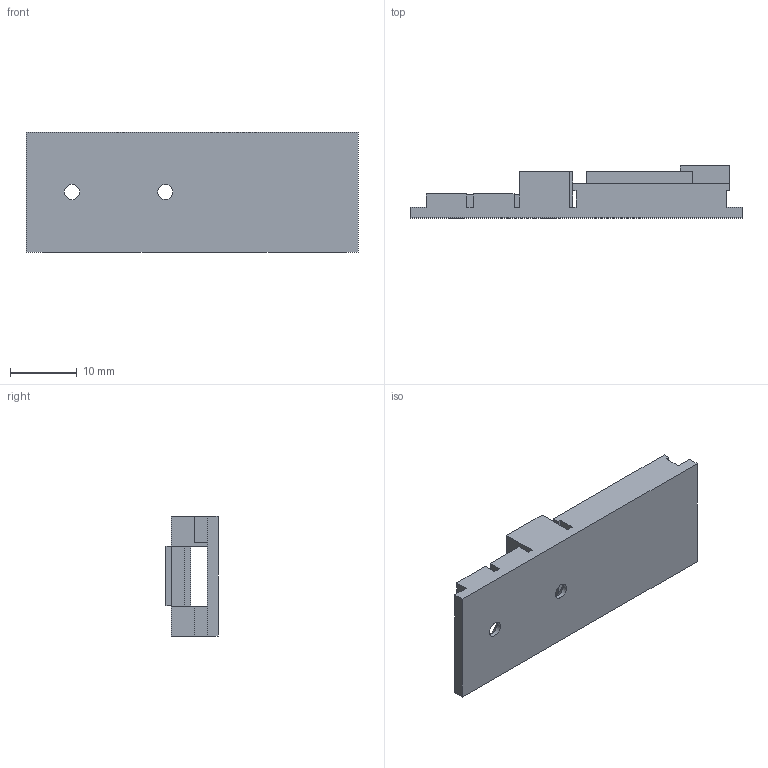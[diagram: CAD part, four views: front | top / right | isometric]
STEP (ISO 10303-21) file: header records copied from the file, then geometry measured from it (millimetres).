
FILE_DESCRIPTION(('Open CASCADE Model'),'2;1');
FILE_NAME('Open CASCADE Shape Model','2026-11-23T18:10:06',('Author'),( 'Open CASCADE'),'Open CASCADE STEP processor 8.0','build123d', 'Unknown');
FILE_SCHEMA(('AUTOMOTIVE_DESIGN { 1 0 10303 214 1 1 1 1 }'));
Length unit declared in the file: millimetre
Products named in the file (1): SOLID
Bounding box: 49.8 x 7.83 x 18 mm (x, y, z)
Volume: 3271.4 mm3; surface area: 3528.3 mm2
Topology: 1 solids, 1 shells, 51 faces, 152 edges, 100 vertices
Faces by surface type: plane 47, cylinder 2, cone 2
Full cylindrical faces by diameter (mm): 2.3 x2
Entity records: 3616 total; most frequent: CARTESIAN_POINT 710, DIRECTION 484, LINE 368, VECTOR 368, ORIENTED_EDGE 304, PCURVE 304, DEFINITIONAL_REPRESENTATION 304, EDGE_CURVE 152
